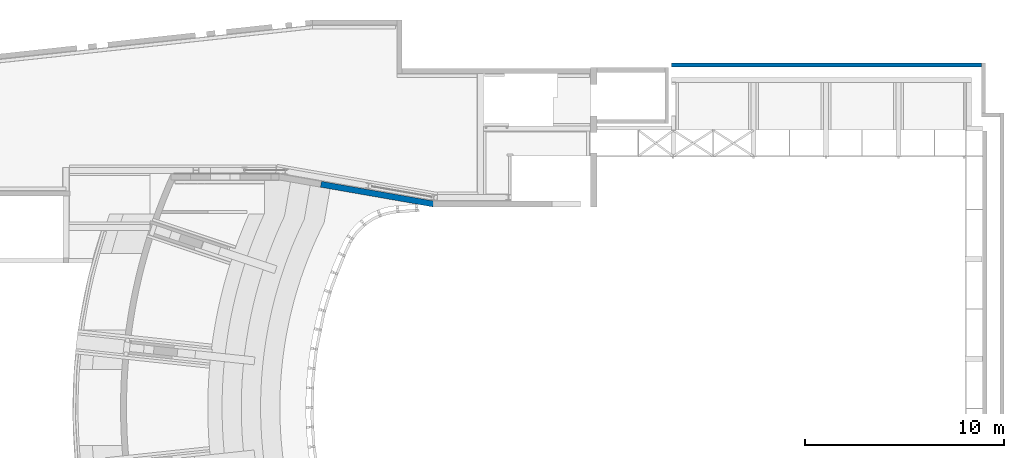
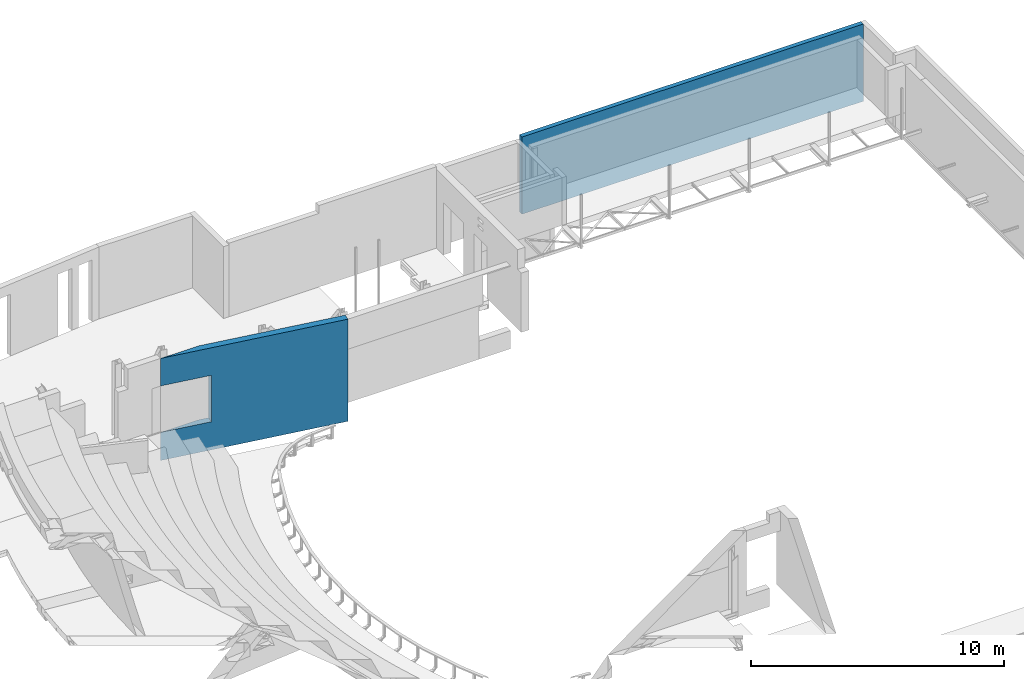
# One storey, part 54 of 68: 2 walls.
"""IFC2X3 building model written with IfcOpenShell, lengths in millimetres."""

from ifc_helpers import new_model, entity, si_unit, converted_unit, derived_unit, direction, frame, frame_2d, origin, place, context, subcontext, project, spatial, polyline, rectangle, extrude, clip, bounded_halfspace, faceted_brep, material, layer, layer_set, layer_usage, type_object, element, save


model = new_model("IFC2X3")

# Units and contexts
model_context = context("Model", 3, precision=0.01, world=origin(), true_north=direction((6.12303176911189e-17, 1.0)))
body_context = subcontext(model_context, "Body", "Model", "MODEL_VIEW")
ifc_project = project(units=[si_unit("LENGTHUNIT", "METRE", prefix="MILLI"), si_unit("AREAUNIT", "SQUARE_METRE", prefix="MILLI"), si_unit("VOLUMEUNIT", "CUBIC_METRE"), converted_unit("PLANEANGLEUNIT", "DEGREE", entity("IfcRatioMeasure", 0.0174532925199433), si_unit("PLANEANGLEUNIT", "RADIAN"), dimensions=[0, 0, 0, 0, 0, 0, 0]), si_unit("MASSUNIT", "GRAM", prefix="KILO"), derived_unit("MASSDENSITYUNIT", [(si_unit("MASSUNIT", "GRAM", prefix="KILO"), 1), (si_unit("LENGTHUNIT", "METRE"), -3)]), derived_unit("MOMENTOFINERTIAUNIT", [(si_unit("LENGTHUNIT", "METRE"), 4)]), si_unit("TIMEUNIT", "SECOND"), si_unit("FREQUENCYUNIT", "HERTZ"), si_unit("THERMODYNAMICTEMPERATUREUNIT", "DEGREE_CELSIUS"), derived_unit("THERMALTRANSMITTANCEUNIT", [(si_unit("MASSUNIT", "GRAM", prefix="KILO"), 1), (si_unit("THERMODYNAMICTEMPERATUREUNIT", "KELVIN"), -1), (si_unit("TIMEUNIT", "SECOND"), -3)]), derived_unit("VOLUMETRICFLOWRATEUNIT", [(si_unit("LENGTHUNIT", "METRE"), 3), (si_unit("TIMEUNIT", "SECOND"), -1)]), si_unit("ELECTRICCURRENTUNIT", "AMPERE"), si_unit("ELECTRICVOLTAGEUNIT", "VOLT"), si_unit("POWERUNIT", "WATT"), si_unit("FORCEUNIT", "NEWTON", prefix="KILO"), si_unit("ILLUMINANCEUNIT", "LUX"), si_unit("LUMINOUSFLUXUNIT", "LUMEN"), si_unit("LUMINOUSINTENSITYUNIT", "CANDELA"), derived_unit("USERDEFINED", [(si_unit("MASSUNIT", "GRAM", prefix="KILO"), -1), (si_unit("LENGTHUNIT", "METRE"), -2), (si_unit("TIMEUNIT", "SECOND"), 3), (si_unit("LUMINOUSFLUXUNIT", "LUMEN"), 1)]), derived_unit("LINEARVELOCITYUNIT", [(si_unit("LENGTHUNIT", "METRE"), 1), (si_unit("TIMEUNIT", "SECOND"), -1)]), si_unit("PRESSUREUNIT", "PASCAL"), derived_unit("USERDEFINED", [(si_unit("LENGTHUNIT", "METRE"), -2), (si_unit("MASSUNIT", "GRAM", prefix="KILO"), 1), (si_unit("TIMEUNIT", "SECOND"), -2)]), derived_unit("LINEARFORCEUNIT", [(si_unit("MASSUNIT", "GRAM", prefix="KILO"), 1), (si_unit("LENGTHUNIT", "METRE"), 1), (si_unit("TIMEUNIT", "SECOND"), -2), (si_unit("LENGTHUNIT", "METRE"), -1)]), derived_unit("PLANARFORCEUNIT", [(si_unit("MASSUNIT", "GRAM", prefix="KILO"), 1), (si_unit("LENGTHUNIT", "METRE"), 1), (si_unit("TIMEUNIT", "SECOND"), -2), (si_unit("LENGTHUNIT", "METRE"), -2)])], contexts=[model_context])

# Site, building, storey
site_placement = place(None, origin())
site = spatial("IfcSite", under=ifc_project, at=site_placement, Name="Theater aan de Parade", CompositionType="ELEMENT")
building_placement = place(site_placement, origin())
building = spatial("IfcBuilding", under=site, at=building_placement, Name="Theater aan de Parade", CompositionType="ELEMENT")
storey_placement = place(building_placement, frame((0.0, 0.0, 8750.0)))
storey = spatial("IfcBuildingStorey", under=building, at=storey_placement, Name="02 tweede verdieping", CompositionType="ELEMENT", Elevation=8750.0)

# Walls
ifc_material_1 = material(Name="00_PBT_MAT_beton t.p.g.")
ifc_layer_1 = layer(ifc_material_1, 300.0)
ifc_layer_set_1 = layer_set([ifc_layer_1], Name="Basic Wall:28_PBT_WA_beton t.p.g._d=300_bestaand")
wall_type_1 = type_object("IfcWallType", Name="Basic Wall:28_PBT_WA_beton t.p.g._d=300_bestaand", PredefinedType="STANDARD", material=ifc_layer_set_1)
wall_1_placement = place(storey_placement, frame((51695.8570497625, 44057.7545700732, -1600.0), z_axis=(0.0, 0.0, 1.0), x_axis=(0.985030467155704, -0.17238033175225, 0.0)))
element("IfcWall", 1, at=wall_1_placement, inside=storey, type_object=wall_type_1, Name="Basic Wall:28_PBT_WA_beton t.p.g._d=300_bestaand", ObjectType="Basic Wall:28_PBT_WA_beton t.p.g._d=300_bestaand", context=body_context, shape_type="Brep", body=[
    faceted_brep([(0.0, -150.0, 3600.0), (2135.75907283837, -150.0, 3600.0), (2135.75907283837, -150.0, 1360.0), (603.401824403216, -150.0, 1360.0), (34.5347015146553, -150.0, 1360.0), (0.0, -150.0, 1360.0), (0.0, -150.0, 833.906763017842), (0.0, -150.0, 688.049020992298), (0.0, -150.0, 0.0), (1163.61758950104, -150.0, 0.0), (1228.03378448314, -150.0, 0.0), (1449.5621218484, -150.0, 0.0), (1738.22472721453, -150.0, 0.0), (7889.53116736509, -150.0, 0.0), (7889.53116736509, -150.0, 4930.0), (0.0, -150.0, 4930.0), (1714.28571428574, 150.0, 3600.0), (1714.28571428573, 150.0, 4930.0), (7863.47912414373, 150.0, 4930.0), (7889.53116736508, 150.0, 4930.0), (7889.53116736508, 150.0, 3480.0), (7889.53116736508, 150.0, 0.0), (1714.28571428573, 150.0, 0.0), (1714.28571428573, 150.0, 160.0), (1714.28571428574, 150.0, 1360.0), (2135.75907283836, 150.0, 1360.0), (2135.75907283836, 150.0, 3600.0), (12.8310281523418, -147.754570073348, 0.0), (25.6620563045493, -145.509140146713, 0.0), (1163.61758950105, 53.6330781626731, 0.0), (1191.54278664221, 58.5199876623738, 0.0), (1406.4884141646, 96.1354724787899, 0.0), (7889.53116736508, -74.4344092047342, 4930.0), (126.937138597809, -127.786000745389, 4930.0), (12.8310281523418, -147.754570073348, 4930.0), (12.8310281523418, -147.754570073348, 3600.0), (603.401824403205, -44.4046807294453, 1360.0), (33.5085035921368, -144.136011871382, 1360.0), (12.8310281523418, -147.754570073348, 1360.0)], [[[0, 1, 2, 3, 4, 5, 6, 7, 8, 9, 10, 11, 12, 13, 14, 15]], [[16, 17, 18, 19, 20, 21, 22, 23, 24, 25, 26]], [[13, 12, 11, 10, 9, 8, 27, 28, 29, 30, 31, 22, 21]], [[14, 13, 21, 20, 19, 32]], [[15, 14, 32, 19, 18, 17, 33, 34]], [[1, 0, 35, 16, 26]], [[2, 1, 26, 25]], [[5, 4, 3, 2, 25, 24, 36, 37, 38]], [[0, 15, 34, 33, 17, 16, 35]], [[5, 38, 37, 36, 24, 23, 22, 31, 30, 29, 28, 27, 8, 7, 6]]]),
])
ifc_material_2 = material(Name="00_PBT_MAT_beton prefab")
ifc_layer_2 = layer(ifc_material_2, 200.0)
ifc_layer_set_2 = layer_set([ifc_layer_2], Name="Basic Wall:28_PBT_WA_beton prefab_d=200")
ifc_layer_usage = layer_usage(ifc_layer_set_2, "AXIS2", "POSITIVE", -100.0)
wall_type_2 = type_object("IfcWallType", Name="Basic Wall:28_PBT_WA_beton prefab_d=200", PredefinedType="STANDARD", material=ifc_layer_set_2)
wall_2_placement = place(storey_placement, frame((87055.0, 49702.0, -90.0), z_axis=(0.0, 0.0, 1.0), x_axis=(-1.0, 0.0, 0.0)))
element("IfcWallStandardCase", 2, at=wall_2_placement, inside=storey, type_object=wall_type_2, material=ifc_layer_usage, Name="Basic Wall:28_PBT_WA_beton prefab_d=200", ObjectType="Basic Wall:28_PBT_WA_beton prefab_d=200", context=body_context, shape_type="Clipping", body=[
    clip(extrude(rectangle(XDim=15598.582194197, YDim=200.000000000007, at=frame_2d((7799.2910970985, -1.96109795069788e-12), x_axis=(-1.0, 0.0))), origin(), (0.0, 0.0, 1.0), 3730.0), bounded_halfspace(frame((0.0, -100.0, 3730.0), z_axis=(0.0, 0.0, -1.0), x_axis=(0.0, 1.0, 0.0)), True, frame((0.0, -100.0, 3730.0), z_axis=(0.0, 0.0, -1.0), x_axis=(0.0, 1.0, 0.0)), polyline([(0.0, 0.0), (200.0, 0.0), (200.0, 15598.5821941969), (0.0, 15598.582194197), (0.0, 0.0)]))),
])

save(model, "model.ifc")
